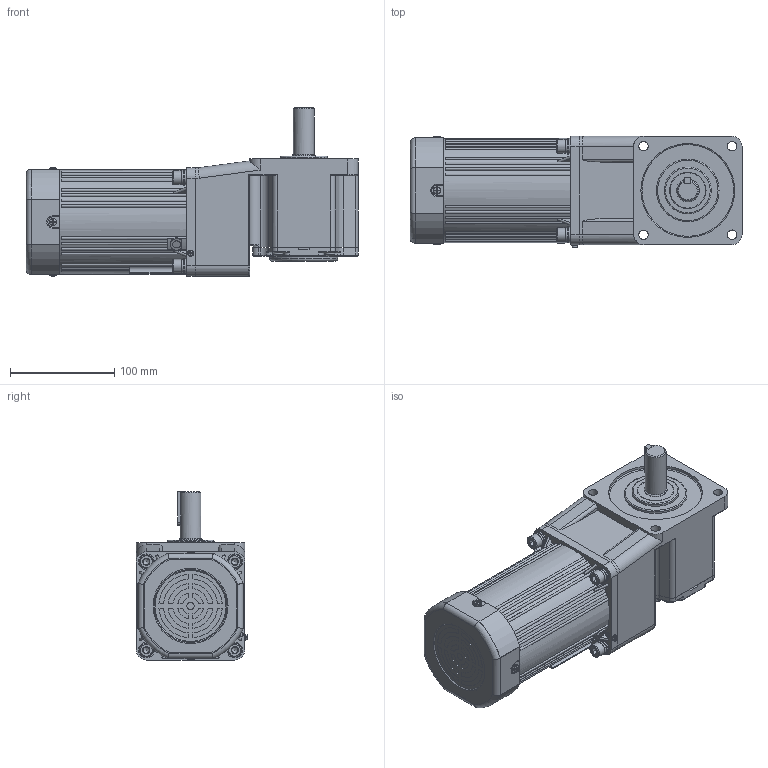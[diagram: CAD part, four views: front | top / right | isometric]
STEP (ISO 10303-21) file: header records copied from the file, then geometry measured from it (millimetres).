
FILE_DESCRIPTION(/* description */ (''),/* implementation_level */ '2;1');
FILE_NAME(/* name */ '100+直角中实-风叶-160-250W 新版.stp',/* time_stamp */ '2025-03-25T15:35:52+08:00',/* author */ (''),/* organization */ (''),/* preprocessor_version */ 'ST-DEVELOPER v18.102',/* originating_system */ 'SIEMENS PLM Software NX 2027',/* authorisation */ '');
FILE_SCHEMA (('AP203_CONFIGURATION_CONTROLLED_3D_DESIGN_OF_MECHANICAL_PARTS_AND_ASSEMBLIES_MIM_LF { 1 0 10303 403 2 1 2}'));
Length unit declared in the file: millimetre
Products named in the file (1): 6RK160-200CC·F_6GU3-750K-C·15L_stp_M066166857A1nl
nw
Bounding box: 318.5 x 106.83 x 161.53 mm (x, y, z)
Volume: 3061890.1 mm3; surface area: 394359.9 mm2
Topology: 25 solids, 25 shells, 1792 faces, 4655 edges, 3013 vertices
Faces by surface type: plane 765, cylinder 560, bspline 214, cone 117, torus 112, sphere 24
Full cylindrical faces by diameter (mm): 2.6 x2, 2.7 x1, 3 x17, 3.2 x2, 3.5 x4, 3.6 x4, 4 x4, 4.55 x2, 5.1 x2, 5.15 x2, 6 x10, 6.8 x12, 7 x2, 7.5 x2, 7.76 x4, 8.4 x4, 9 x13, 9.3 x1, 9.5 x4, 13 x4, 14 x8, 15 x5, 15.5 x2, 19 x2, 20 x1, 21 x1, 22 x1, 28 x1, 30 x3, 35 x2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
Entity records: 54776 total; most frequent: CARTESIAN_POINT 13474, ORIENTED_EDGE 8400, DIRECTION 8130, EDGE_CURVE 4200, AXIS2_PLACEMENT_3D 3225, VERTEX_POINT 2854, EDGE_LOOP 2255, ADVANCED_FACE 1791
